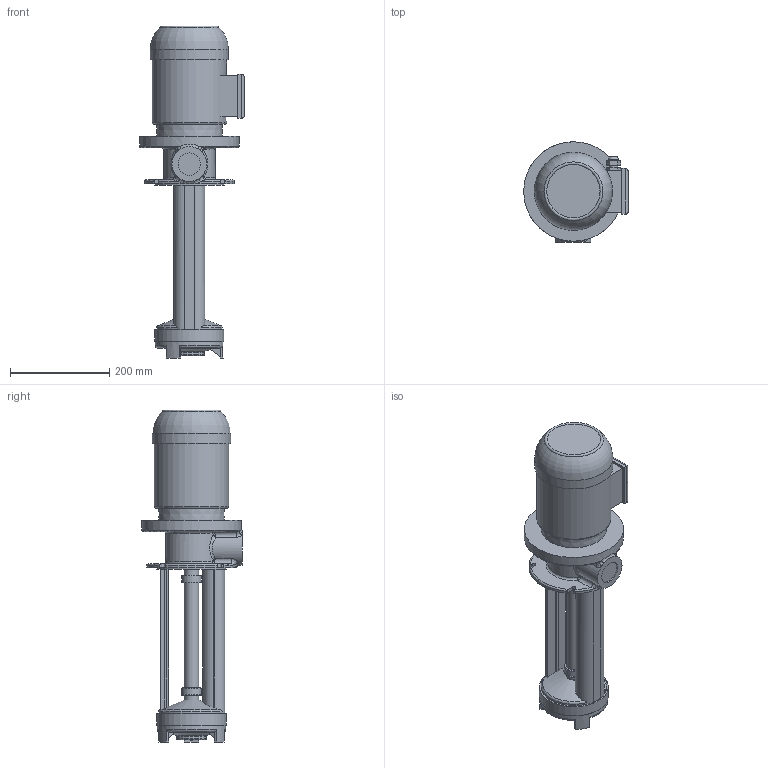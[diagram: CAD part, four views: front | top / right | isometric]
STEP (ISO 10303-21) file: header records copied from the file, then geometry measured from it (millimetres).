
FILE_DESCRIPTION(/* description */ ('Unknown'),/* implementation_level */ '2;1');
FILE_NAME(/* name */ 'gp350',/* time_stamp */ '2025-06-04T09:10:41+03:00',/* author */ ('Unknown'),/* organization */ ('Unknown'),/* preprocessor_version */ 'ST-DEVELOPER v16.7',/* originating_system */ 'DEX',/* authorisation */ $);
FILE_SCHEMA (('AUTOMOTIVE_DESIGN {1 0 10303 214 3 1 1}'));
Length unit declared in the file: millimetre
Products named in the file (1): gp350
Bounding box: 210.5 x 202 x 667.57 mm (x, y, z)
Volume: 7541929.4 mm3; surface area: 430961 mm2
Topology: 1 solids, 1 shells, 296 faces, 730 edges, 467 vertices
Faces by surface type: plane 112, bspline 86, cylinder 64, torus 18, cone 16
Full cylindrical faces by diameter (mm): 17 x1, 21.5 x1, 29 x3, 33 x2, 35 x2, 39 x2, 40.5 x2, 45 x1, 47 x1, 60 x1, 137 x1, 139 x1, 140 x1, 149.426 x1, 200 x1
Entity records: 11370 total; most frequent: CARTESIAN_POINT 5073, ORIENTED_EDGE 1360, DIRECTION 1075, EDGE_CURVE 680, VERTEX_POINT 462, AXIS2_PLACEMENT_3D 393, EDGE_LOOP 376, FACE_BOUND 376
